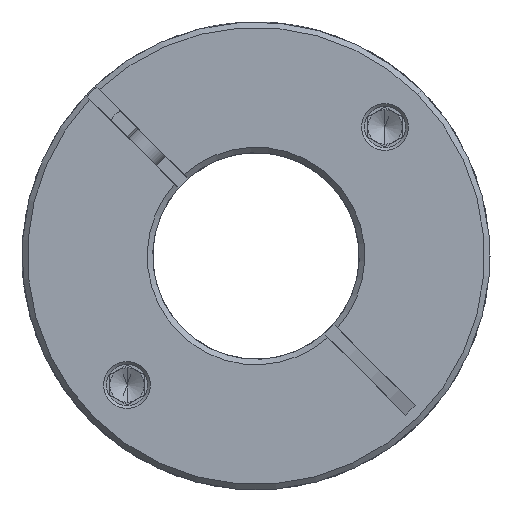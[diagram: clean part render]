
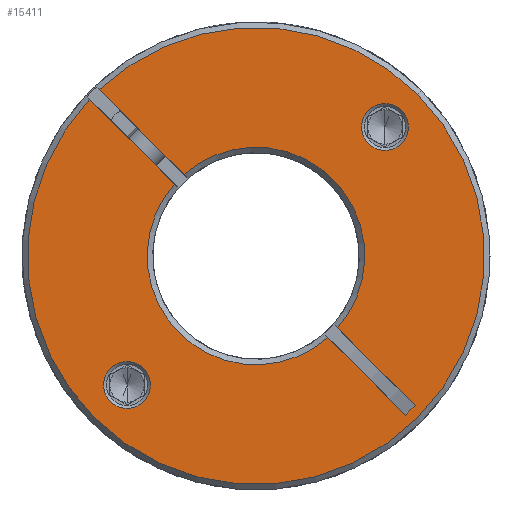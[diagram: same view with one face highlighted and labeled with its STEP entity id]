
A CAD part, front view. The second image highlights one B-rep face of the part: STEP entity #15411.
In plain terms, the highlighted planar face has unit normal (0, -1, 0).
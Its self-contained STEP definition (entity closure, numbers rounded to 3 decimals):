
#13 = CARTESIAN_POINT ( 'NONE',  ( 16.003, -67.045, 86.738 ) ) ;
#21 = CIRCLE ( 'NONE', #20518, 3.4 ) ;
#74 = DIRECTION ( 'NONE',  ( 0.707, 0., 0.707 ) ) ;
#135 = CARTESIAN_POINT ( 'NONE',  ( -23.878, -67.045, 46.858 ) ) ;
#393 = ORIENTED_EDGE ( 'NONE', *, *, #3288, .T. ) ;
#713 = CARTESIAN_POINT ( 'NONE',  ( -25.493, -67.045, 92.172 ) ) ;
#763 = VECTOR ( 'NONE', #4096, 1000. ) ;
#828 = AXIS2_PLACEMENT_3D ( 'NONE', #6545, #1309, #17715 ) ;
#1005 = CARTESIAN_POINT ( 'NONE',  ( -14.592, -67.045, 78.443 ) ) ;
#1240 = VERTEX_POINT ( 'NONE', #16137 ) ;
#1276 = CIRCLE ( 'NONE', #13568, 33.2 ) ;
#1309 = DIRECTION ( 'NONE',  ( 0., -1., 0. ) ) ;
#1320 = DIRECTION ( 'NONE',  ( 0., 1., 0. ) ) ;
#1740 = CARTESIAN_POINT ( 'NONE',  ( -26.211, -67.045, 44.524 ) ) ;
#1792 = DIRECTION ( 'NONE',  ( 0., -1., 0. ) ) ;
#1974 = VERTEX_POINT ( 'NONE', #1005 ) ;
#2119 = DIRECTION ( 'NONE',  ( 0., 1., 0. ) ) ;
#2417 = AXIS2_PLACEMENT_3D ( 'NONE', #6086, #12791, #17623 ) ;
#2580 = CIRCLE ( 'NONE', #16338, 15.8 ) ;
#2677 = CARTESIAN_POINT ( 'NONE',  ( -3.442, -67.045, 67.293 ) ) ;
#2824 = EDGE_CURVE ( 'NONE', #6562, #5199, #1276, .T. ) ;
#3038 = DIRECTION ( 'NONE',  ( 0., 1., 0. ) ) ;
#3229 = VERTEX_POINT ( 'NONE', #13329 ) ;
#3288 = EDGE_CURVE ( 'NONE', #4242, #5716, #11518, .T. ) ;
#3593 = DIRECTION ( 'NONE',  ( -0.707, 0., -0.707 ) ) ;
#3835 = EDGE_CURVE ( 'NONE', #1240, #20049, #8416, .T. ) ;
#4096 = DIRECTION ( 'NONE',  ( 0.707, 0., -0.707 ) ) ;
#4242 = VERTEX_POINT ( 'NONE', #5725 ) ;
#4429 = VECTOR ( 'NONE', #16506, 1000. ) ;
#4838 = VERTEX_POINT ( 'NONE', #15576 ) ;
#4954 = CARTESIAN_POINT ( 'NONE',  ( -2.735, -67.045, 68. ) ) ;
#5102 = LINE ( 'NONE', #2677, #763 ) ;
#5199 = VERTEX_POINT ( 'NONE', #713 ) ;
#5460 = VERTEX_POINT ( 'NONE', #19154 ) ;
#5621 = CARTESIAN_POINT ( 'NONE',  ( 20.741, -67.045, 91.476 ) ) ;
#5682 = VERTEX_POINT ( 'NONE', #19648 ) ;
#5716 = VERTEX_POINT ( 'NONE', #8437 ) ;
#5725 = CARTESIAN_POINT ( 'NONE',  ( 9.122, -67.045, 57.557 ) ) ;
#5988 = CIRCLE ( 'NONE', #10187, 33.2 ) ;
#6086 = CARTESIAN_POINT ( 'NONE',  ( 16.003, -67.045, 86.738 ) ) ;
#6545 = CARTESIAN_POINT ( 'NONE',  ( -2.735, -67.045, 68. ) ) ;
#6562 = VERTEX_POINT ( 'NONE', #5621 ) ;
#7061 = EDGE_CURVE ( 'NONE', #5460, #17235, #16040, .T. ) ;
#7284 = ORIENTED_EDGE ( 'NONE', *, *, #18989, .T. ) ;
#7307 = ORIENTED_EDGE ( 'NONE', *, *, #10532, .T. ) ;
#7382 = EDGE_CURVE ( 'NONE', #20049, #1240, #13694, .T. ) ;
#7411 = CARTESIAN_POINT ( 'NONE',  ( 18.407, -67.045, 89.142 ) ) ;
#7451 = CARTESIAN_POINT ( 'NONE',  ( 13.599, -67.045, 84.334 ) ) ;
#7484 = EDGE_CURVE ( 'NONE', #5682, #19665, #5988, .T. ) ;
#8068 = EDGE_CURVE ( 'NONE', #5716, #17235, #11605, .T. ) ;
#8416 = CIRCLE ( 'NONE', #13738, 3.4 ) ;
#8437 = CARTESIAN_POINT ( 'NONE',  ( 20.402, -67.045, 46.277 ) ) ;
#8454 = CARTESIAN_POINT ( 'NONE',  ( 18.988, -67.045, 44.862 ) ) ;
#8734 = ORIENTED_EDGE ( 'NONE', *, *, #15315, .T. ) ;
#9442 = EDGE_CURVE ( 'NONE', #5682, #1974, #5102, .T. ) ;
#9742 = CARTESIAN_POINT ( 'NONE',  ( -3.442, -67.045, 67.293 ) ) ;
#10181 = DIRECTION ( 'NONE',  ( 0., -1., 0. ) ) ;
#10187 = AXIS2_PLACEMENT_3D ( 'NONE', #19669, #14867, #18009 ) ;
#10418 = CARTESIAN_POINT ( 'NONE',  ( 18.988, -67.045, 44.862 ) ) ;
#10532 = EDGE_CURVE ( 'NONE', #11402, #14080, #20371, .T. ) ;
#10591 = EDGE_CURVE ( 'NONE', #5199, #4838, #15446, .T. ) ;
#10792 = CIRCLE ( 'NONE', #17085, 15.8 ) ;
#10858 = FACE_BOUND ( 'NONE', #19880, .T. ) ;
#11159 = CARTESIAN_POINT ( 'NONE',  ( -21.473, -67.045, 49.262 ) ) ;
#11186 = DIRECTION ( 'NONE',  ( 0., 1., 0. ) ) ;
#11189 = ORIENTED_EDGE ( 'NONE', *, *, #7484, .T. ) ;
#11402 = VERTEX_POINT ( 'NONE', #7451 ) ;
#11518 = LINE ( 'NONE', #19912, #18764 ) ;
#11563 = ORIENTED_EDGE ( 'NONE', *, *, #7061, .F. ) ;
#11605 = LINE ( 'NONE', #8454, #19884 ) ;
#11837 = EDGE_CURVE ( 'NONE', #5460, #1974, #16453, .T. ) ;
#11960 = CARTESIAN_POINT ( 'NONE',  ( -2.735, -67.045, 68. ) ) ;
#12094 = AXIS2_PLACEMENT_3D ( 'NONE', #4954, #1792, #74 ) ;
#12252 = ORIENTED_EDGE ( 'NONE', *, *, #17800, .T. ) ;
#12423 = FACE_OUTER_BOUND ( 'NONE', #20957, .T. ) ;
#12791 = DIRECTION ( 'NONE',  ( 0., 1., 0. ) ) ;
#12816 = DIRECTION ( 'NONE',  ( 0.707, 0., 0.707 ) ) ;
#12879 = ORIENTED_EDGE ( 'NONE', *, *, #3835, .T. ) ;
#13164 = PLANE ( 'NONE',  #12094 ) ;
#13329 = CARTESIAN_POINT ( 'NONE',  ( 8.437, -67.045, 79.172 ) ) ;
#13568 = AXIS2_PLACEMENT_3D ( 'NONE', #15068, #10181, #18199 ) ;
#13694 = CIRCLE ( 'NONE', #17214, 3.4 ) ;
#13738 = AXIS2_PLACEMENT_3D ( 'NONE', #13758, #13898, #13826 ) ;
#13758 = CARTESIAN_POINT ( 'NONE',  ( -21.473, -67.045, 49.262 ) ) ;
#13826 = DIRECTION ( 'NONE',  ( 0.707, 0., 0.707 ) ) ;
#13898 = DIRECTION ( 'NONE',  ( 0., 1., 0. ) ) ;
#14080 = VERTEX_POINT ( 'NONE', #7411 ) ;
#14667 = DIRECTION ( 'NONE',  ( 0.707, 0., -0.707 ) ) ;
#14867 = DIRECTION ( 'NONE',  ( 0., -1., 0. ) ) ;
#15068 = CARTESIAN_POINT ( 'NONE',  ( -2.735, -67.045, 68. ) ) ;
#15315 = EDGE_CURVE ( 'NONE', #19665, #6562, #16303, .T. ) ;
#15411 = ADVANCED_FACE ( 'NONE', ( #10858, #21226, #12423 ), #13164, .T. ) ;
#15446 = LINE ( 'NONE', #19411, #18565 ) ;
#15576 = CARTESIAN_POINT ( 'NONE',  ( -13.178, -67.045, 79.857 ) ) ;
#15921 = EDGE_LOOP ( 'NONE', ( #12879, #21224 ) ) ;
#15923 = DIRECTION ( 'NONE',  ( 0.707, 0., 0.707 ) ) ;
#16040 = LINE ( 'NONE', #9742, #4429 ) ;
#16137 = CARTESIAN_POINT ( 'NONE',  ( -19.069, -67.045, 51.666 ) ) ;
#16303 = CIRCLE ( 'NONE', #828, 33.2 ) ;
#16338 = AXIS2_PLACEMENT_3D ( 'NONE', #11960, #2119, #16940 ) ;
#16453 = CIRCLE ( 'NONE', #17054, 15.8 ) ;
#16506 = DIRECTION ( 'NONE',  ( 0.707, 0., -0.707 ) ) ;
#16940 = DIRECTION ( 'NONE',  ( 0.707, 0., 0.707 ) ) ;
#17054 = AXIS2_PLACEMENT_3D ( 'NONE', #19503, #11186, #17907 ) ;
#17085 = AXIS2_PLACEMENT_3D ( 'NONE', #21345, #17573, #15923 ) ;
#17214 = AXIS2_PLACEMENT_3D ( 'NONE', #11159, #1320, #12816 ) ;
#17235 = VERTEX_POINT ( 'NONE', #10418 ) ;
#17355 = ORIENTED_EDGE ( 'NONE', *, *, #8068, .T. ) ;
#17573 = DIRECTION ( 'NONE',  ( 0., 1., 0. ) ) ;
#17623 = DIRECTION ( 'NONE',  ( 0.707, 0., 0.707 ) ) ;
#17715 = DIRECTION ( 'NONE',  ( 0.707, 0., 0.707 ) ) ;
#17800 = EDGE_CURVE ( 'NONE', #4838, #3229, #2580, .T. ) ;
#17907 = DIRECTION ( 'NONE',  ( 0.707, 0., 0.707 ) ) ;
#18009 = DIRECTION ( 'NONE',  ( 0.707, 0., 0.707 ) ) ;
#18016 = EDGE_CURVE ( 'NONE', #14080, #11402, #21, .T. ) ;
#18019 = ORIENTED_EDGE ( 'NONE', *, *, #10591, .T. ) ;
#18024 = DIRECTION ( 'NONE',  ( 0.707, 0., 0.707 ) ) ;
#18199 = DIRECTION ( 'NONE',  ( 0.707, 0., 0.707 ) ) ;
#18565 = VECTOR ( 'NONE', #14667, 1000. ) ;
#18764 = VECTOR ( 'NONE', #20039, 1000. ) ;
#18989 = EDGE_CURVE ( 'NONE', #3229, #4242, #10792, .T. ) ;
#19154 = CARTESIAN_POINT ( 'NONE',  ( 7.708, -67.045, 56.143 ) ) ;
#19411 = CARTESIAN_POINT ( 'NONE',  ( -2.028, -67.045, 68.707 ) ) ;
#19503 = CARTESIAN_POINT ( 'NONE',  ( -2.735, -67.045, 68. ) ) ;
#19616 = ORIENTED_EDGE ( 'NONE', *, *, #9442, .F. ) ;
#19648 = CARTESIAN_POINT ( 'NONE',  ( -26.908, -67.045, 90.758 ) ) ;
#19665 = VERTEX_POINT ( 'NONE', #1740 ) ;
#19669 = CARTESIAN_POINT ( 'NONE',  ( -2.735, -67.045, 68. ) ) ;
#19880 = EDGE_LOOP ( 'NONE', ( #21211, #7307 ) ) ;
#19884 = VECTOR ( 'NONE', #3593, 1000. ) ;
#19912 = CARTESIAN_POINT ( 'NONE',  ( -2.028, -67.045, 68.707 ) ) ;
#20039 = DIRECTION ( 'NONE',  ( 0.707, 0., -0.707 ) ) ;
#20049 = VERTEX_POINT ( 'NONE', #135 ) ;
#20172 = ORIENTED_EDGE ( 'NONE', *, *, #2824, .T. ) ;
#20371 = CIRCLE ( 'NONE', #2417, 3.4 ) ;
#20518 = AXIS2_PLACEMENT_3D ( 'NONE', #13, #3038, #18024 ) ;
#20776 = ORIENTED_EDGE ( 'NONE', *, *, #11837, .T. ) ;
#20957 = EDGE_LOOP ( 'NONE', ( #19616, #11189, #8734, #20172, #18019, #12252, #7284, #393, #17355, #11563, #20776 ) ) ;
#21211 = ORIENTED_EDGE ( 'NONE', *, *, #18016, .T. ) ;
#21224 = ORIENTED_EDGE ( 'NONE', *, *, #7382, .T. ) ;
#21226 = FACE_BOUND ( 'NONE', #15921, .T. ) ;
#21345 = CARTESIAN_POINT ( 'NONE',  ( -2.735, -67.045, 68. ) ) ;
